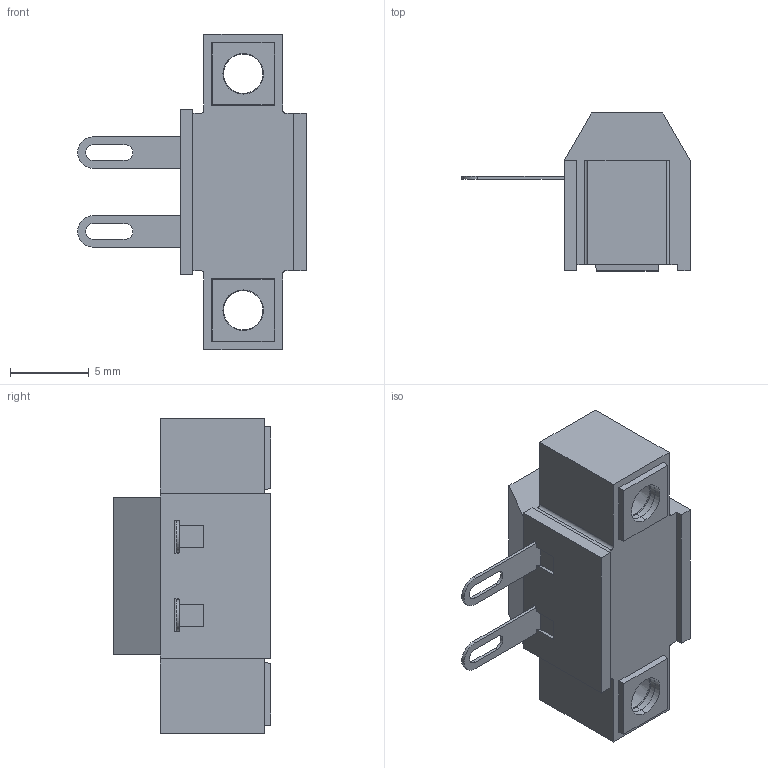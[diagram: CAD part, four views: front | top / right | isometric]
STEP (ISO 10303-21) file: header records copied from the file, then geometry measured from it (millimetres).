
FILE_DESCRIPTION (( 'STEP AP214' ), '1' );
FILE_NAME ('951-A-LFDS-02.STEP', '2008-04-15T03:48:45', ( ' ' ), ( '' ), 'SwSTEP 2.0', 'SolidWorks 2007', '' );
FILE_SCHEMA (( 'AUTOMOTIVE_DESIGN' ));
Length unit declared in the file: millimetre
Products named in the file (1): 951-A-LFDS-02
Bounding box: 14.5 x 10 x 20 mm (x, y, z)
Volume: 839.6 mm3; surface area: 1103.2 mm2
Topology: 1 solids, 1 shells, 206 faces, 644 edges, 426 vertices
Faces by surface type: plane 156, cylinder 30, cone 12, bspline 8
Entity records: 7637 total; most frequent: CARTESIAN_POINT 1883, ORIENTED_EDGE 1288, DIRECTION 1092, EDGE_CURVE 644, VECTOR 462, LINE 462, VERTEX_POINT 426, AXIS2_PLACEMENT_3D 315
